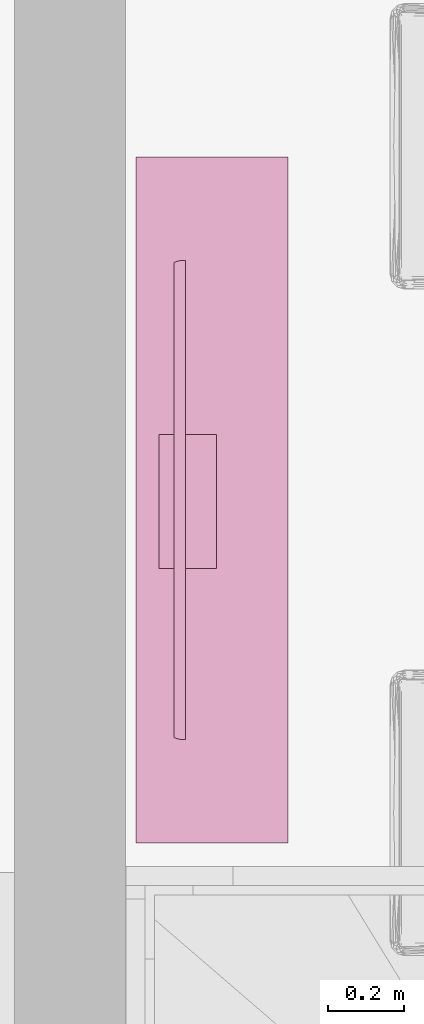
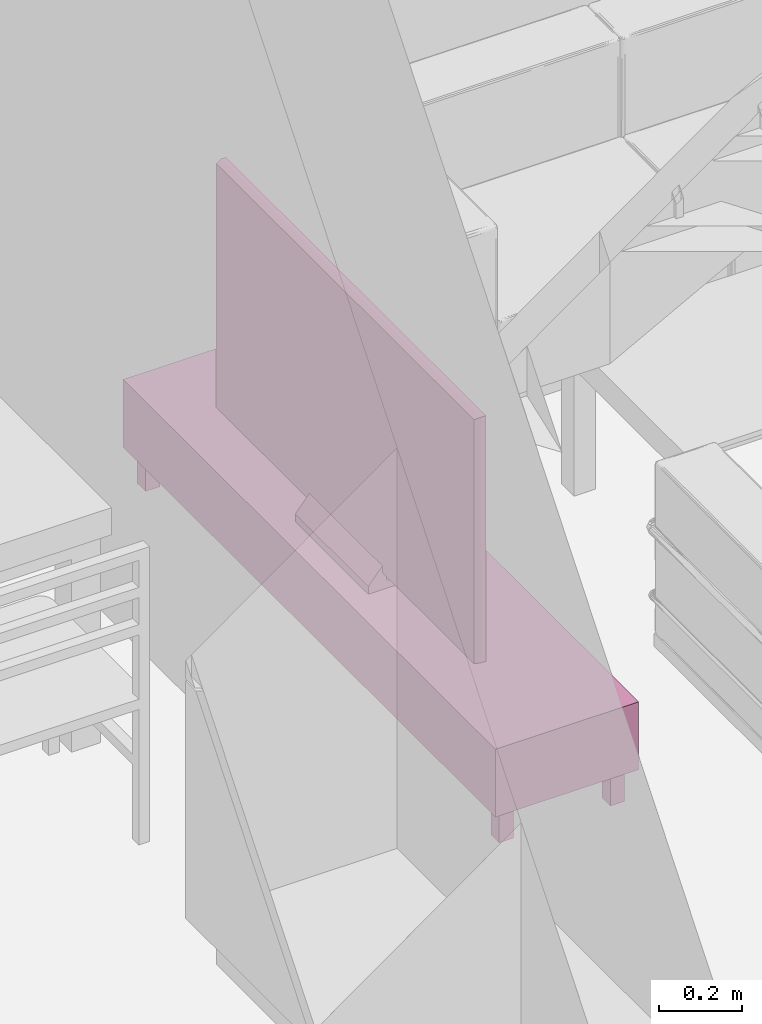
# One storey, part 40 of 65: 1 furnishing.
"""IFC2X3 building model written with IfcOpenShell, lengths in millimetres."""

from ifc_helpers import new_model, entity, si_unit, converted_unit, direction, frame, origin, place, context, subcontext, project, spatial, faceted_brep, source, transform, mapped, material, material_list, type_object, type_shapes, element, save


model = new_model("IFC2X3")

# Units and contexts
model_context = context("Model", 3, precision=0.01, world=origin(), true_north=direction((0.0, 1.0)))
body_context = subcontext(model_context, "Body", "Model", "MODEL_VIEW")
ifc_project = project(units=[si_unit("LENGTHUNIT", "METRE", prefix="MILLI"), si_unit("AREAUNIT", "SQUARE_METRE"), si_unit("VOLUMEUNIT", "CUBIC_METRE"), converted_unit("PLANEANGLEUNIT", "DEGREE", entity("IfcPlaneAngleMeasure", 0.017453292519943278), si_unit("PLANEANGLEUNIT", "RADIAN"), dimensions=[0, 0, 0, 0, 0, 0, 0])], contexts=[model_context])

# Site, building, storey, space
site_placement = place(None, origin())
site = spatial("IfcSite", under=ifc_project, at=site_placement, Name="Default", CompositionType="ELEMENT")
building_placement = place(site_placement, origin())
building = spatial("IfcBuilding", under=site, at=building_placement, CompositionType="ELEMENT")
storey_placement = place(building_placement, origin())
storey = spatial("IfcBuildingStorey", under=building, at=storey_placement, Name="Et. 1", CompositionType="ELEMENT", Elevation=0.0)
space_placement = place(storey_placement, origin())
space = spatial("IfcSpace", under=storey, at=space_placement, Name="109", CompositionType="ELEMENT", InteriorOrExteriorSpace="INTERNAL")

# Furnishing
ifc_material_1 = material(Name="Focus - TV - Sort")
ifc_material_2 = material(Name="Focus - Metall - Krom")
ifc_material_3 = material(Name="Focus - Møbler - Hvit")
ifc_material_list = material_list([ifc_material_1, ifc_material_2, ifc_material_3])
furniture_type = type_object("IfcFurnitureType", Name="TV bord (1):TV bord 1800x400x300", AssemblyPlace="NOTDEFINED", material=ifc_material_list)
shared_shape = source(origin(), body_context, "Body", "Brep", [
    faceted_brep([(535.1044252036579, 528.5550193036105, 322.4792366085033), (535.1044252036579, 526.6842377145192, 323.47298199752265), (535.1044252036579, 525.9363454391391, 325.45490298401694), (535.1044252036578, 525.9363454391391, 370.0), (535.1044252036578, 513.9363454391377, 370.0), (535.1044252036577, 474.47496908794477, 322.83260995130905), (535.1044252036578, 474.47496908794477, 300.0), (535.1044252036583, 625.9363454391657, 300.0), (535.1044252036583, 625.9363454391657, 310.0), (182.12411793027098, 474.47496908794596, 322.83260995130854), (182.12411793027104, 513.9363454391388, 370.0), (182.12411793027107, 525.9363454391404, 370.0), (182.12411793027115, 525.9363454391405, 325.4549029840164), (182.12411793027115, 526.6842377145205, 323.4729819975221), (182.12411793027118, 528.5550193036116, 322.47923660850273), (182.12411793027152, 625.9363454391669, 310.0), (182.12411793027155, 625.9363454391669, 300.0), (182.124117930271, 474.47496908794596, 300.0), (519.984899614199, 525.9363454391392, 325.454902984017), (504.86537605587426, 525.9363454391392, 325.45490298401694), (490.9818870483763, 525.9363454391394, 325.45490298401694), (468.92061695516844, 525.9363454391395, 325.4549029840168), (446.8593468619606, 525.9363454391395, 325.4549029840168), (424.7980767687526, 525.9363454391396, 325.45490298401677), (402.73680870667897, 525.9363454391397, 325.45490298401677), (380.67554064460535, 525.9363454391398, 325.45490298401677), (358.6142705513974, 525.9363454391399, 325.45490298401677), (344.73078154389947, 525.9363454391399, 325.4549029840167), (330.84729050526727, 525.9363454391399, 325.45490298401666), (316.963799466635, 525.9363454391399, 325.45490298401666), (303.0803104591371, 525.93634543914, 325.45490298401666), (287.9607869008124, 525.9363454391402, 325.45490298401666), (272.84126334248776, 525.9363454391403, 325.45490298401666), (257.72173978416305, 525.9363454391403, 325.4549029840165), (242.60221419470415, 525.9363454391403, 325.4549029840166), (227.48268860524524, 525.9363454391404, 325.4549029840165), (212.36316504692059, 525.9363454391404, 325.4549029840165), (197.24364148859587, 525.9363454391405, 325.4549029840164), (197.24364190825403, 528.5550193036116, 322.47923660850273), (212.36316595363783, 528.5550193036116, 322.4792366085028), (227.4826899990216, 528.5550193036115, 322.4792366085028), (242.60221397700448, 528.5550193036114, 322.4792366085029), (257.72173795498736, 528.5550193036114, 322.4792366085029), (272.8412620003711, 528.5550193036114, 322.4792366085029), (287.96078604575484, 528.5550193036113, 322.47923660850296), (303.08031002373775, 528.5550193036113, 322.47923660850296), (318.1998340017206, 528.5550193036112, 322.47923660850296), (333.31935804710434, 528.5550193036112, 322.479236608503), (348.43888209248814, 528.5550193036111, 322.479236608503), (363.558406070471, 528.5550193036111, 322.479236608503), (378.6779300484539, 528.5550193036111, 322.4792366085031), (393.7974540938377, 528.555019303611, 322.47923660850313), (408.9169781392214, 528.555019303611, 322.47923660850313), (424.03650211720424, 528.5550193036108, 322.47923660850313), (437.91999249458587, 528.5550193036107, 322.47923660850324), (451.80348287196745, 528.5550193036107, 322.47923660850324), (465.6869732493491, 528.5550193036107, 322.4792366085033), (479.57046362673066, 528.5550193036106, 322.4792366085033), (493.4539540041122, 528.5550193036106, 322.4792366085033), (507.3374443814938, 528.5550193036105, 322.4792366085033), (519.984901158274, 528.5550193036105, 322.47923660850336), (337.68066245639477, 526.6430406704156, 323.52080028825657), (224.27890068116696, 526.6842377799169, 323.47298192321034), (204.80340727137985, 526.6842378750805, 323.4729818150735), (302.46229687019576, 526.7687345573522, 323.3809061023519), (287.96078948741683, 526.6842377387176, 323.47298197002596), (519.6968558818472, 526.6842377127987, 323.47298199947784), (239.91619314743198, 526.6842377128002, 323.4729819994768), (413.76744661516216, 526.6599675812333, 323.5009060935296), (397.7173638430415, 526.6694903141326, 323.4898666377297), (371.11817041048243, 526.6334825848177, 323.5321906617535), (441.27558772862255, 526.8083203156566, 323.34030867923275), (481.02976280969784, 526.5444504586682, 323.6441466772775), (497.92363261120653, 526.7462141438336, 323.40470179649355), (316.9638042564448, 526.6842377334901, 323.47298197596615), (458.7452292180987, 526.6028547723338, 323.56947960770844), (257.72174274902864, 526.6842376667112, 323.4729820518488), (354.04763371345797, 526.7922136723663, 323.35664204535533), (272.84126613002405, 526.6581872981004, 323.5029820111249)], [[[0, 1, 2, 3, 4, 5, 6, 7, 8]], [[9, 10, 11, 12, 13, 14, 15, 16, 17]], [[4, 3, 11, 10]], [[7, 6, 17, 16]], [[3, 2, 18, 19, 20, 21, 22, 23, 24, 25, 26, 27, 28, 29, 30, 31, 32, 33, 34, 35, 36, 37, 12, 11]], [[5, 4, 10, 9]], [[6, 5, 9, 17]], [[8, 7, 16, 15]], [[0, 8, 15, 14, 38, 39, 40, 41, 42, 43, 44, 45, 46, 47, 48, 49, 50, 51, 52, 53, 54, 55, 56, 57, 58, 59, 60]], [[61, 48, 47]], [[62, 63, 36]], [[30, 64, 65]], [[13, 12, 37]], [[18, 2, 1, 66, 19]], [[34, 67, 35]], [[68, 52, 69]], [[70, 69, 50]], [[68, 23, 71]], [[72, 20, 73]], [[62, 39, 63]], [[19, 73, 20]], [[29, 28, 74, 30]], [[31, 30, 65]], [[75, 56, 55]], [[57, 56, 72, 58]], [[44, 43, 65]], [[42, 41, 76, 43]], [[62, 35, 67]], [[13, 37, 63]], [[66, 1, 0, 60, 59]], [[38, 14, 13]], [[41, 40, 67]], [[67, 34, 76]], [[73, 58, 72]], [[63, 39, 38]], [[63, 38, 13]], [[40, 39, 62]], [[67, 40, 62]], [[72, 21, 20]], [[19, 66, 73]], [[49, 77, 70]], [[75, 55, 71]], [[75, 72, 56]], [[21, 72, 75]], [[75, 22, 21]], [[22, 75, 71]], [[68, 24, 23]], [[54, 53, 71, 55]], [[23, 22, 71]], [[37, 36, 63]], [[69, 24, 68]], [[53, 68, 71]], [[70, 26, 25]], [[49, 70, 50]], [[69, 70, 25]], [[25, 24, 69]], [[50, 69, 52, 51]], [[26, 70, 77]], [[61, 28, 27]], [[77, 48, 61]], [[27, 26, 77]], [[77, 49, 48]], [[68, 53, 52]], [[73, 59, 58]], [[76, 33, 78]], [[65, 43, 78]], [[41, 67, 76]], [[46, 45, 74, 47]], [[62, 36, 35]], [[47, 74, 61]], [[73, 66, 59]], [[77, 61, 27]], [[28, 61, 74]], [[74, 45, 64]], [[33, 32, 31, 78]], [[74, 64, 30]], [[76, 34, 33]], [[45, 44, 64]], [[65, 64, 44]], [[76, 78, 43]], [[65, 78, 31]]]),
    faceted_brep([(-274.1123280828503, 543.9363454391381, 1074.9426906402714), (-254.11232808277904, 543.936345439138, 1054.9426906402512), (-254.11232808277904, 543.936345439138, 370.0), (963.4518429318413, 543.9363454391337, 1054.942690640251), (-274.1123280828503, 543.9363454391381, 350.0), (983.45184293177, 543.9363454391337, 1074.9426906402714), (963.4518429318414, 543.9363454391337, 370.0), (983.45184293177, 543.9363454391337, 350.0), (871.2987961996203, 513.9363454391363, 1069.700820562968), (764.3876072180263, 513.9363454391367, 1069.700820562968), (657.4764182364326, 513.9363454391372, 1069.700820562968), (550.5652415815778, 513.9363454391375, 1069.700820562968), (452.61750258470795, 513.9363454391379, 1069.700820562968), (354.6697512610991, 513.9363454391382, 1069.700820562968), (276.7272251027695, 513.9363454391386, 1069.700820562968), (198.78469894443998, 513.9363454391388, 1069.700820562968), (120.84217278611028, 513.936345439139, 1069.700820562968), (42.8996466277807, 513.9363454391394, 1069.700820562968), (-35.042879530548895, 513.9363454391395, 1069.7008205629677), (-112.98540568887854, 513.9363454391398, 1069.700820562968), (-161.959281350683, 513.93634543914, 1069.700820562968), (-268.870458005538, 513.9363454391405, 1069.7008205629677), (-268.87045800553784, 513.9363454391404, 962.7896420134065), (-268.87045800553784, 513.9363454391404, 855.8784560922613), (-268.87045800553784, 513.9363454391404, 782.864436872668), (-268.87045800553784, 513.9363454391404, 709.850410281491), (-268.87045800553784, 513.9363454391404, 619.8878077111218), (-268.87045800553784, 513.9363454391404, 529.9252051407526), (-268.87045800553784, 513.9363454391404, 456.9111859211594), (-268.870458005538, 513.9363454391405, 350.0), (978.2099728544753, 513.936345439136, 350.0), (978.2099728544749, 513.9363454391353, 456.91117949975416), (978.2099728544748, 513.9363454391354, 563.8223660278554), (978.2099728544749, 513.9363454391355, 670.7335525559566), (978.209972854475, 513.9363454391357, 777.6447320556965), (978.209972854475, 513.9363454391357, 850.658757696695), (978.209972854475, 513.9363454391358, 923.6727763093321), (978.209972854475, 513.936345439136, 1016.245227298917), (978.2099728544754, 513.936345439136, 1069.700820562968), (983.45184293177, 540.9363454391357, 1074.9426906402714), (-274.1123280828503, 540.9363454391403, 1074.9426906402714), (-274.11232808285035, 530.9363454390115, 1074.9426906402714), (-167.20113860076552, 530.9363454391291, 1074.9426906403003), (-72.97496770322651, 530.9363454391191, 1074.942690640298), (27.593712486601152, 530.9363454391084, 1074.9426906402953), (128.16239267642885, 530.9363454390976, 1074.942690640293), (235.07358215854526, 530.9363454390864, 1074.9426906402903), (288.52916869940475, 530.9363454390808, 1074.942690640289), (341.98475524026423, 530.9363454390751, 1074.9426906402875), (448.89592832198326, 530.9363454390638, 1074.942690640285), (555.8071178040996, 530.9363454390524, 1074.942690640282), (662.7183072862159, 530.936345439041, 1074.9426906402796), (769.6294803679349, 530.9363454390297, 1074.9426906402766), (876.5406534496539, 530.9363454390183, 1074.942690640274), (983.45184293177, 530.9363454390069, 1074.9426906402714), (983.45184293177, 540.9363454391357, 350.0), (983.4518429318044, 530.9363454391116, 968.0315073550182), (983.4518429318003, 530.9363454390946, 893.7070161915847), (983.4518429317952, 530.936345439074, 803.0891825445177), (983.4518429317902, 530.9363454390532, 712.4713488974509), (983.451842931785, 530.9363454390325, 621.8535152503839), (983.45184293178, 530.9363454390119, 531.2356744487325), (983.4518429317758, 530.9363454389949, 456.911183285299), (983.45184293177, 530.9363454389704, 350.0), (981.0831520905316, 522.3585671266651, 350.0), (-271.7436372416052, 522.3585671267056, 350.0), (-274.1123280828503, 530.9363454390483, 350.0), (-274.1123280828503, 540.9363454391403, 350.0), (-274.1123280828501, 530.9363454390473, 403.4555910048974), (-274.1123280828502, 530.9363454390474, 498.64897772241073), (-274.11232808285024, 530.9363454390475, 572.973466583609), (-274.11232808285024, 530.9363454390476, 647.2979554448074), (-274.1123280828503, 530.9363454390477, 754.2091446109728), (-274.1123280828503, 530.9363454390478, 861.120326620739), (-274.1123280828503, 530.9363454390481, 968.0315086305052), (-254.11232808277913, 540.9363454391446, 1054.9426906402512), (963.4518429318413, 540.9363454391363, 1054.942690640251), (963.4518429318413, 540.9363454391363, 370.0), (-254.1123280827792, 540.9363454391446, 370.0), (-271.6079802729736, 521.9209899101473, 561.039955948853), (-272.0942324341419, 523.5120302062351, 807.6647388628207), (-271.6838000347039, 522.1649725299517, 1000.2475796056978), (-271.52856035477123, 521.6669815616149, 493.4181930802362), (-271.74968537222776, 522.3781866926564, 731.6126583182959), (-271.4604584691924, 521.4504221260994, 664.869113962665), (-271.64314636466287, 522.0339695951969, 424.4548075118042), (-272.03175870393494, 523.3040303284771, 936.0688543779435), (-271.7208591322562, 522.2847625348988, 871.778613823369), (-271.7425576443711, 522.3550660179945, 1072.5729202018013), (-204.66446821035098, 523.3287969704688, 1072.8695772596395), (-137.47234325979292, 522.5092649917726, 1072.6203800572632), (908.7567322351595, 522.1649725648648, 1072.5141626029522), (833.778825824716, 522.5817361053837, 1072.6426227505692), (-62.80278335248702, 522.0049948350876, 1072.4644995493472), (159.81344423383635, 522.0845569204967, 1072.4892230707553), (226.4217047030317, 521.9934399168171, 1072.4609048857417), (315.25696952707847, 521.9504164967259, 1072.4475115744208), (981.0820724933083, 522.3550660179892, 1072.5729202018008), (80.1835543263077, 522.8422800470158, 1072.7222575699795), (501.59138676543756, 522.559214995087, 1072.6357149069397), (392.4883252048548, 522.952944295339, 1072.7559254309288), (3.928384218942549, 521.850551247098, 1072.4163685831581), (566.2823689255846, 522.2857797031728, 1072.5515358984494), (646.0692239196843, 522.4365461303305, 1072.5980210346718), (710.9320272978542, 522.0760981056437, 1072.4865968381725), (772.290516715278, 522.6133420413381, 1072.6523106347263), (981.0831519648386, 522.3585667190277, 494.0734241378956), (981.2237700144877, 522.8172109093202, 560.7957970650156), (981.2987228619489, 523.0638411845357, 930.8692618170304), (981.2065184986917, 522.7606600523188, 863.377909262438), (981.1904531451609, 522.7080691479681, 998.9721352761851), (980.8231085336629, 521.5238622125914, 630.1745518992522), (981.0101229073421, 522.122416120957, 696.939627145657), (981.0709396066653, 522.318980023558, 422.0367118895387), (981.0159296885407, 522.1411428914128, 798.4273735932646)], [[[0, 1, 2]], [[1, 0, 3]], [[2, 4, 0]], [[5, 3, 0]], [[3, 5, 6]], [[7, 6, 5]], [[6, 7, 4]], [[4, 2, 6]], [[8, 9, 10, 11, 12, 13, 14, 15, 16, 17, 18, 19, 20, 21, 22, 23, 24, 25, 26, 27, 28, 29, 30, 31, 32, 33, 34, 35, 36, 37, 38]], [[39, 5, 0, 40, 41, 42, 43, 44, 45, 46, 47, 48, 49, 50, 51, 52, 53, 54]], [[55, 7, 5, 39, 54, 56, 57, 58, 59, 60, 61, 62, 63]], [[4, 7, 55, 63, 64, 30, 29, 65, 66, 67]], [[40, 0, 4, 67, 66, 68, 69, 70, 71, 72, 73, 74, 41]], [[75, 76, 77, 78]], [[3, 76, 75, 1]], [[2, 1, 75, 78]], [[2, 78, 77, 6]], [[6, 77, 76, 3]], [[69, 79, 71, 70]], [[80, 73, 72]], [[41, 74, 81]], [[82, 28, 27]], [[83, 71, 84]], [[79, 82, 27]], [[82, 85, 28]], [[86, 73, 87]], [[41, 81, 88]], [[72, 83, 80]], [[82, 79, 69]], [[73, 80, 87]], [[81, 21, 88]], [[68, 66, 65]], [[29, 28, 85]], [[82, 69, 85]], [[85, 69, 68]], [[84, 26, 25]], [[68, 65, 85]], [[29, 85, 65]], [[27, 26, 79]], [[79, 26, 84]], [[83, 84, 25]], [[79, 84, 71]], [[83, 24, 80]], [[71, 83, 72]], [[86, 81, 74]], [[87, 80, 23]], [[23, 22, 87]], [[22, 81, 86]], [[24, 83, 25]], [[24, 23, 80]], [[21, 81, 22]], [[73, 86, 74]], [[22, 86, 87]], [[42, 89, 90]], [[54, 53, 91]], [[8, 91, 92]], [[18, 93, 19]], [[46, 45, 94]], [[95, 96, 47]], [[19, 90, 20]], [[54, 91, 97]], [[98, 16, 94]], [[99, 12, 11]], [[99, 49, 100]], [[18, 17, 101]], [[46, 94, 95]], [[18, 101, 93]], [[102, 99, 11]], [[103, 102, 10]], [[52, 51, 104]], [[92, 9, 8]], [[91, 38, 97]], [[21, 20, 89]], [[41, 88, 89]], [[90, 89, 20]], [[43, 42, 90]], [[41, 89, 42]], [[44, 101, 98]], [[101, 43, 93]], [[89, 88, 21]], [[12, 99, 100]], [[96, 100, 48]], [[98, 101, 17]], [[43, 101, 44]], [[16, 15, 94]], [[44, 98, 45]], [[98, 17, 16]], [[43, 90, 93]], [[19, 93, 90]], [[94, 15, 95]], [[98, 94, 45]], [[96, 48, 47]], [[46, 95, 47]], [[95, 15, 14]], [[96, 95, 14]], [[14, 13, 96]], [[100, 96, 13]], [[12, 100, 13]], [[49, 48, 100]], [[10, 104, 103]], [[50, 49, 99]], [[9, 92, 105]], [[9, 104, 10]], [[103, 104, 51]], [[51, 50, 103]], [[102, 50, 99]], [[92, 91, 53]], [[38, 91, 8]], [[53, 52, 92]], [[105, 52, 104]], [[10, 102, 11]], [[103, 50, 102]], [[9, 105, 104]], [[92, 52, 105]], [[106, 61, 107]], [[108, 109, 57]], [[61, 106, 62]], [[108, 110, 36]], [[97, 110, 54]], [[111, 60, 112]], [[97, 38, 37]], [[113, 106, 31]], [[56, 108, 57]], [[109, 108, 36]], [[106, 107, 32]], [[63, 62, 113]], [[30, 64, 113]], [[106, 113, 62]], [[36, 110, 37]], [[32, 31, 106]], [[30, 113, 31]], [[113, 64, 63]], [[108, 56, 110]], [[114, 112, 59]], [[109, 114, 58]], [[36, 35, 109]], [[54, 110, 56]], [[97, 37, 110]], [[114, 35, 34]], [[58, 57, 109]], [[61, 60, 107]], [[112, 33, 111]], [[111, 32, 107]], [[111, 107, 60]], [[112, 60, 59]], [[32, 111, 33]], [[114, 59, 58]], [[34, 33, 112]], [[35, 114, 109]], [[112, 114, 34]]]),
    faceted_brep([(1229.6697574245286, 438.9363454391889, 0.0), (1229.6697574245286, 478.9363454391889, 0.0), (1229.6697574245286, 478.9363454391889, 80.0), (1229.669757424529, 748.9363454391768, 80.0), (1229.669757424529, 748.9363454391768, 0.0), (1229.669757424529, 788.9363454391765, 0.0), (1229.669757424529, 788.9363454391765, 100.0), (1229.6697574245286, 438.9363454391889, 100.0), (1189.6697574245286, 438.936345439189, 0.0), (1189.6697574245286, 438.936345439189, 100.0), (1189.669757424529, 788.9363454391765, 100.0), (1189.669757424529, 788.9363454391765, 0.0), (1189.669757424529, 748.9363454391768, 0.0), (1189.669757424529, 748.9363454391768, 80.0), (1189.6697574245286, 478.936345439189, 80.0), (1189.6697574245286, 478.936345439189, 0.0)], [[[0, 1, 2, 3, 4, 5, 6, 7]], [[8, 9, 10, 11, 12, 13, 14, 15]], [[1, 0, 8, 15]], [[2, 1, 15, 14]], [[3, 2, 14, 13]], [[4, 3, 13, 12]], [[5, 4, 12, 11]], [[6, 5, 11, 10]], [[7, 6, 10, 9]], [[0, 7, 9, 8]]]),
    faceted_brep([(-480.33024257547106, 438.9363454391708, 0.0), (-480.330242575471, 478.93634543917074, 0.0), (-480.330242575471, 478.93634543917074, 80.0), (-480.33024257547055, 748.9363454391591, 80.0), (-480.33024257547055, 748.9363454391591, 0.0), (-480.3302425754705, 788.9363454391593, 0.0), (-480.3302425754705, 788.9363454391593, 100.0), (-480.33024257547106, 438.9363454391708, 100.0), (-520.3302425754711, 438.93634543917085, 0.0), (-520.3302425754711, 438.93634543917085, 100.0), (-520.3302425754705, 788.9363454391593, 100.0), (-520.3302425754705, 788.9363454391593, 0.0), (-520.3302425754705, 748.9363454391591, 0.0), (-520.3302425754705, 748.9363454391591, 80.0), (-520.330242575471, 478.93634543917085, 80.0), (-520.330242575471, 478.93634543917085, 0.0)], [[[0, 1, 2, 3, 4, 5, 6, 7]], [[8, 9, 10, 11, 12, 13, 14, 15]], [[1, 0, 8, 15]], [[2, 1, 15, 14]], [[3, 2, 14, 13]], [[4, 3, 13, 12]], [[5, 4, 12, 11]], [[6, 5, 11, 10]], [[7, 6, 10, 9]], [[0, 7, 9, 8]]]),
    faceted_brep([(1189.6697574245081, 478.9363454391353, 80.0), (-480.3302425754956, 478.9363454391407, 80.0), (-480.3302425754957, 478.9363454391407, 100.0), (1189.6697574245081, 478.9363454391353, 100.0), (1189.669757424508, 438.9363454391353, 80.0), (1189.669757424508, 438.9363454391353, 100.0), (-480.3302425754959, 438.9363454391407, 100.0), (-480.33024257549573, 438.9363454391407, 80.0)], [[[0, 1, 2, 3]], [[4, 5, 6, 7]], [[1, 0, 4, 7]], [[2, 1, 7, 6]], [[3, 2, 6, 5]], [[0, 3, 5, 4]]]),
    faceted_brep([(1189.6697574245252, 788.9363454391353, 80.0), (-480.33024257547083, 788.9363454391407, 80.0), (-480.3302425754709, 788.9363454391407, 100.0), (1189.6697574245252, 788.9363454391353, 100.0), (1189.6697574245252, 748.9363454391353, 80.0), (1189.6697574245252, 748.9363454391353, 100.0), (-480.330242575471, 748.9363454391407, 100.0), (-480.330242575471, 748.9363454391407, 80.0)], [[[0, 1, 2, 3]], [[4, 5, 6, 7]], [[1, 0, 4, 7]], [[2, 1, 7, 6]], [[3, 2, 6, 5]], [[0, 3, 5, 4]]]),
    faceted_brep([(658.003090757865, 813.9363454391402, 150.0), (628.003090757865, 813.9363454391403, 150.0), (628.003090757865, 813.9363454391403, 250.0), (658.003090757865, 813.9363454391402, 250.0), (658.0030907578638, 423.93634543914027, 150.0), (658.0030907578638, 423.93634543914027, 250.0), (628.0030907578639, 423.9363454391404, 250.0), (628.0030907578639, 423.9363454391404, 150.0)], [[[0, 1, 2, 3]], [[4, 5, 6, 7]], [[1, 0, 4, 7]], [[2, 1, 7, 6]], [[3, 2, 6, 5]], [[0, 3, 5, 4]]]),
    faceted_brep([(81.33642409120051, 813.9363454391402, 150.0), (51.33642409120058, 813.9363454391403, 150.0), (51.33642409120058, 813.9363454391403, 250.0), (81.33642409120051, 813.9363454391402, 250.0), (81.33642409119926, 423.93634543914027, 150.0), (81.33642409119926, 423.93634543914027, 250.0), (51.33642409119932, 423.9363454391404, 250.0), (51.33642409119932, 423.9363454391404, 150.0)], [[[0, 1, 2, 3]], [[4, 5, 6, 7]], [[1, 0, 4, 7]], [[2, 1, 7, 6]], [[3, 2, 6, 5]], [[0, 3, 5, 4]]]),
    faceted_brep([(1254.6697574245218, 813.9363454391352, 300.0), (1254.6697574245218, 813.9363454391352, 100.0), (-545.3302425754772, 813.936345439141, 100.0), (-545.3302425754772, 813.936345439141, 300.0), (1204.669757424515, 813.9363454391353, 150.0), (1204.669757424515, 813.9363454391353, 250.0), (-495.33024257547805, 813.9363454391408, 250.0), (-495.33024257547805, 813.9363454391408, 150.0), (1254.6697574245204, 413.9363454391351, 300.0), (-545.3302425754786, 413.93634543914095, 300.0), (-545.3302425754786, 413.93634543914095, 100.0), (1254.6697574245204, 413.9363454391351, 100.0), (1254.6697574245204, 423.93634543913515, 100.0), (-545.3302425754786, 423.93634543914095, 100.0), (-545.3302425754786, 423.93634543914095, 300.0), (1254.6697574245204, 423.93634543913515, 300.0), (1204.6697574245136, 423.9363454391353, 250.0), (-495.3302425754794, 423.93634543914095, 250.0), (-495.3302425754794, 423.93634543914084, 150.0), (1204.6697574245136, 423.9363454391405, 150.0)], [[[0, 1, 2, 3], [4, 5, 6, 7]], [[8, 9, 10, 11]], [[2, 1, 12, 11, 10, 13]], [[0, 3, 14, 9, 8, 15]], [[6, 5, 16, 17]], [[4, 7, 18, 19]], [[1, 0, 15, 8, 11, 12]], [[3, 2, 13, 10, 9, 14]], [[5, 4, 19, 16]], [[7, 6, 17, 18]], [[17, 16, 19, 18]]]),
])
type_shapes(furniture_type, [shared_shape])
furnishing_placement = place(space_placement, frame((21937.073241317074, 15687.916491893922, 0.0), z_axis=(0.0, 0.0, 1.0), x_axis=(0.0, -1.0, 0.0)))
element("IfcFurnishingElement", 1, at=furnishing_placement, inside=space, type_object=furniture_type, material=ifc_material_list, Name="TV bord (1):TV bord 1800x400x300", context=body_context, shape_type="MappedRepresentation", body=[
    mapped(shared_shape, transform((0.0, 0.0, 0.0), scale=1.0)),
])

save(model, "model.ifc")
